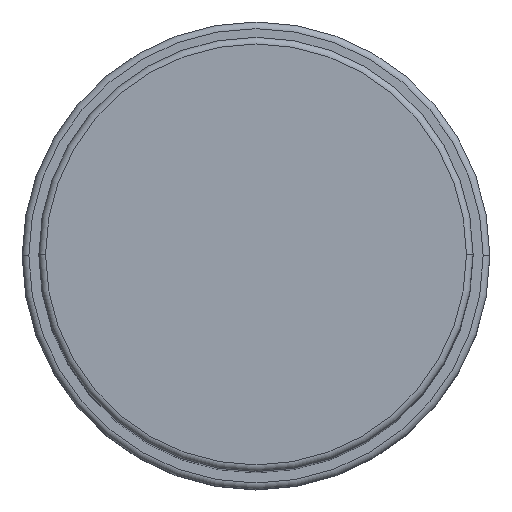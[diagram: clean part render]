
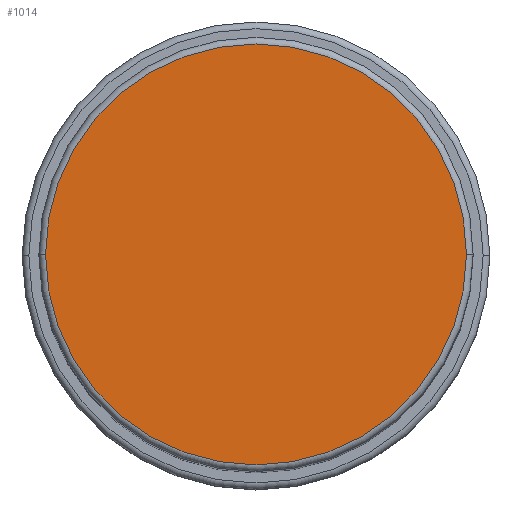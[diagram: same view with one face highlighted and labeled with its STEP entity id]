
A CAD part, top view. The second image highlights one B-rep face of the part: STEP entity #1014.
In plain terms, the highlighted planar face has unit normal (0, 0, 1).
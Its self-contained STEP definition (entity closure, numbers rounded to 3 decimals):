
#66 = DIRECTION ( 'NONE',  ( 1., 0., 0. ) ) ;
#86 = CARTESIAN_POINT ( 'NONE',  ( -31.5, 0., 133. ) ) ;
#92 = AXIS2_PLACEMENT_3D ( 'NONE', #1157, #754, #735 ) ;
#114 = EDGE_CURVE ( 'NONE', #1608, #123, #1094, .T. ) ;
#115 = FACE_OUTER_BOUND ( 'NONE', #1343, .T. ) ;
#123 = VERTEX_POINT ( 'NONE', #86 ) ;
#356 = DIRECTION ( 'NONE',  ( 0., 0., 1. ) ) ;
#428 = CIRCLE ( 'NONE', #948, 31.5 ) ;
#704 = EDGE_CURVE ( 'NONE', #123, #1608, #428, .T. ) ;
#735 = DIRECTION ( 'NONE',  ( 1., 0., 0. ) ) ;
#754 = DIRECTION ( 'NONE',  ( 0., 0., 1. ) ) ;
#874 = CARTESIAN_POINT ( 'NONE',  ( 0., 0., 133. ) ) ;
#892 = DIRECTION ( 'NONE',  ( 0., 0., 1. ) ) ;
#948 = AXIS2_PLACEMENT_3D ( 'NONE', #1162, #356, #1700 ) ;
#1003 = PLANE ( 'NONE',  #92 ) ;
#1014 = ADVANCED_FACE ( 'NONE', ( #115 ), #1003, .T. ) ;
#1034 = CARTESIAN_POINT ( 'NONE',  ( 31.5, 0., 133. ) ) ;
#1094 = CIRCLE ( 'NONE', #1239, 31.5 ) ;
#1157 = CARTESIAN_POINT ( 'NONE',  ( 0., 0., 133. ) ) ;
#1162 = CARTESIAN_POINT ( 'NONE',  ( 0., 0., 133. ) ) ;
#1239 = AXIS2_PLACEMENT_3D ( 'NONE', #874, #892, #66 ) ;
#1343 = EDGE_LOOP ( 'NONE', ( #1623, #1469 ) ) ;
#1469 = ORIENTED_EDGE ( 'NONE', *, *, #704, .T. ) ;
#1608 = VERTEX_POINT ( 'NONE', #1034 ) ;
#1623 = ORIENTED_EDGE ( 'NONE', *, *, #114, .T. ) ;
#1700 = DIRECTION ( 'NONE',  ( 1., 0., 0. ) ) ;
